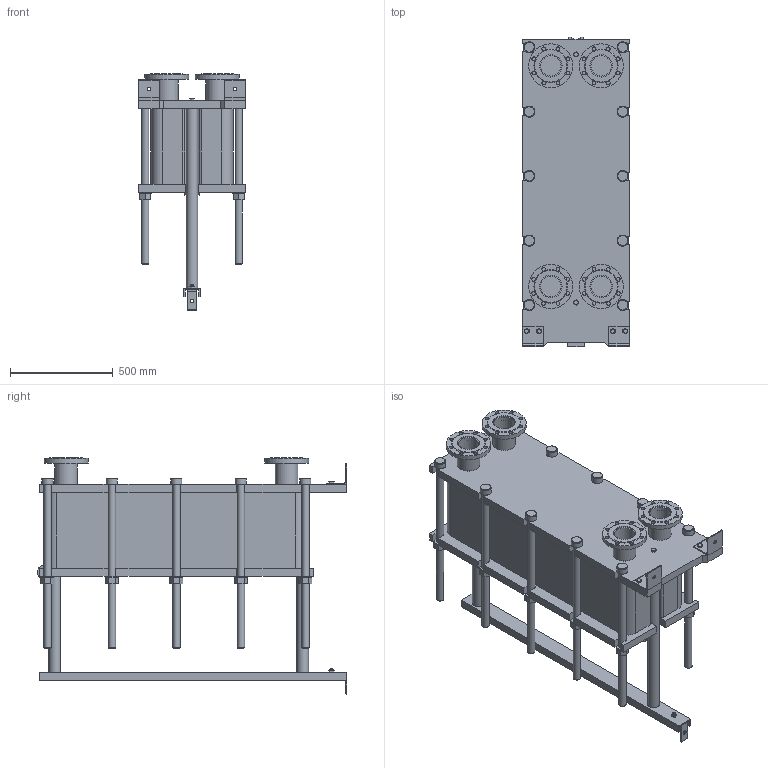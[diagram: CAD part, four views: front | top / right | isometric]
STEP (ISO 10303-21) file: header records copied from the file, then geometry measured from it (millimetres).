
FILE_DESCRIPTION(/* description */ (''),/* implementation_level */ '2;1');
FILE_NAME(/* name */ 'C:\Users\zhuro\Desktop\ENCO\TO\ЭН-04\ЭН-0,5-04-107-1.stp',/* time_stamp */ '2022-06-06T10:54:44+03:00',/* author */ ('zhuro'),/* organization */ (''),/* preprocessor_version */ 'ST-DEVELOPER v18.1',/* originating_system */ 'Autodesk Inventor 2022',/* authorisation */ '');
FILE_SCHEMA (('AUTOMOTIVE_DESIGN { 1 0 10303 214 3 1 1 }'));
Length unit declared in the file: millimetre
Products named in the file (1): ЭН-0,5-04-107-1
Bounding box: 520 x 1510 x 1153.5 mm (x, y, z)
Volume: 256067622.5 mm3; surface area: 8509192.6 mm2
Topology: 45 solids, 45 shells, 668 faces, 1611 edges, 1048 vertices
Faces by surface type: plane 457, cylinder 166, cone 39, torus 6
Full cylindrical faces by diameter (mm): 8 x4, 10 x2, 16 x8, 18 x35, 36 x25, 40 x2, 42 x1, 45 x4, 54 x10, 57 x2, 60 x10, 68 x2, 100 x4, 110 x8, 215 x4
Entity records: 23607 total; most frequent: CARTESIAN_POINT 7348, DIRECTION 3371, ORIENTED_EDGE 3142, EDGE_CURVE 1571, AXIS2_PLACEMENT_3D 1199, VERTEX_POINT 1044, LINE 973, VECTOR 973
